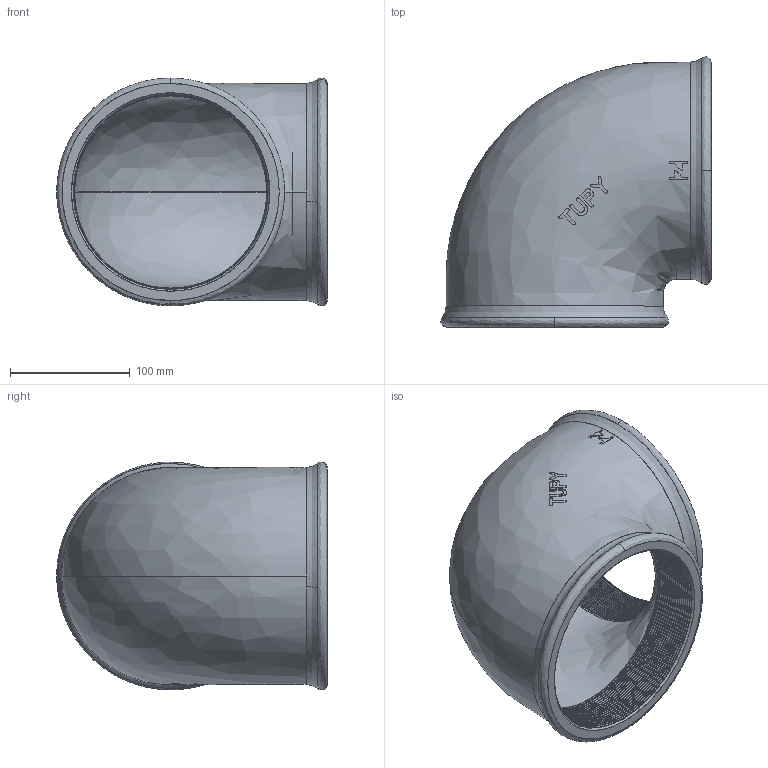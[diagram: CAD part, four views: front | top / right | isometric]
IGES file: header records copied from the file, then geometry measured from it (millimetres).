
Start section: SolidWorks IGES file using analytic representation for surfaces
Global section: file name: C:\Users\Joel Rosa\Desktop\Tubulação\12-07-OK\12-07-016.IGS; native system: SolidWorks 2011; preprocessor: SolidWorks 2011; author: Joel Rosa; date: 121204.004257; units: millimetre
Bounding box: 226.3 x 226.3 x 190.6 mm (x, y, z)
Surface area: 284880.3 mm2 (no closed solid volume)
Topology: 0 solids, 0 shells, 455 faces, 3688 edges, 3688 vertices
Faces by surface type: bspline 309, revolution 146
